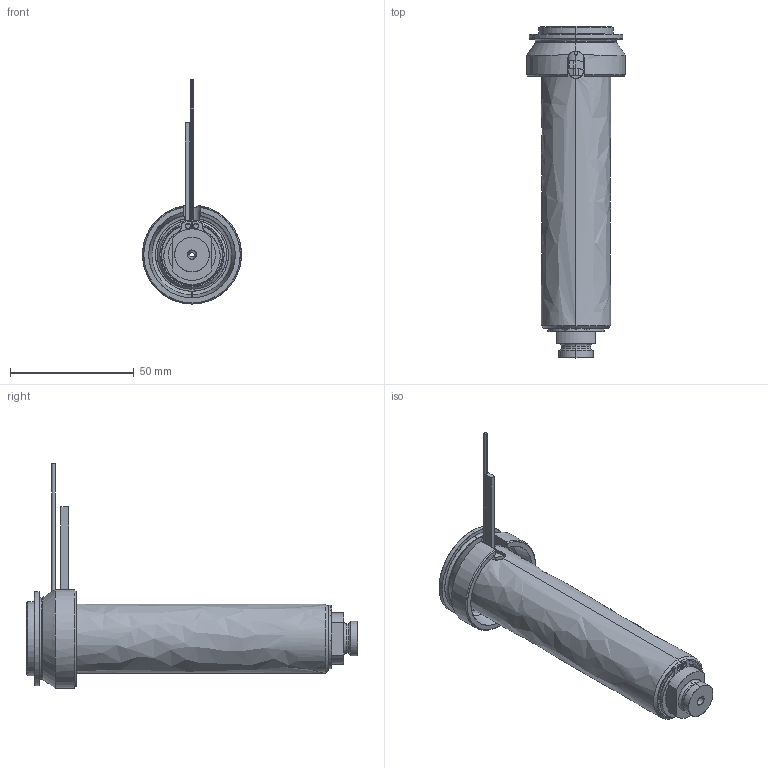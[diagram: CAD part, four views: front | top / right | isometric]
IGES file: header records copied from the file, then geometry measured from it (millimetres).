
Start section: SolidWorks IGES file using analytic representation for surfaces
Global section: file name: C:\Documents and Settings\ws-20\Desktop\TEMPORANEA\UGBE4003-M-A-5 [Ød-2.0 P-0 ØC-09].IGS; native system: SolidWorks 2012; preprocessor: SolidWorks 2012; author: ws-20; date: 120306.123548; units: millimetre
Bounding box: 40 x 134.25 x 90.65 mm (x, y, z)
Surface area: 40860.3 mm2 (no closed solid volume)
Topology: 0 solids, 0 shells, 103 faces, 1697 edges, 1697 vertices
Faces by surface type: revolution 60, bspline 43
